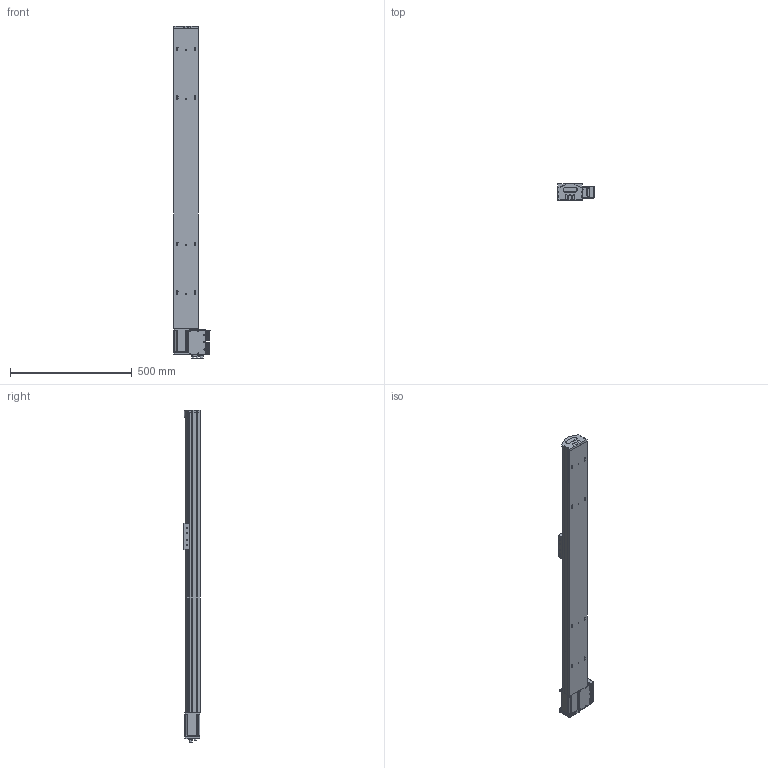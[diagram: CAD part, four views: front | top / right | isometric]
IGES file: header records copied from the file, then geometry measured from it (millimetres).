
Start section: SolidWorks IGES file using analytic representation for surfaces
Global section: file name: C:\Documents and Settings\1EDPI\Mes documents\yanize\S 10 TSH MD\S 10 TSH MD S1000.IGS; native system: SolidWorks 2010; preprocessor: SolidWorks 2010; author: 1EDPI; date: 120829.160445; units: millimetre
Bounding box: 148.26 x 66.75 x 1361.6 mm (x, y, z)
Surface area: 814142.5 mm2 (no closed solid volume)
Topology: 0 solids, 0 shells, 1726 faces, 23592 edges, 23564 vertices
Faces by surface type: revolution 924, bspline 802
